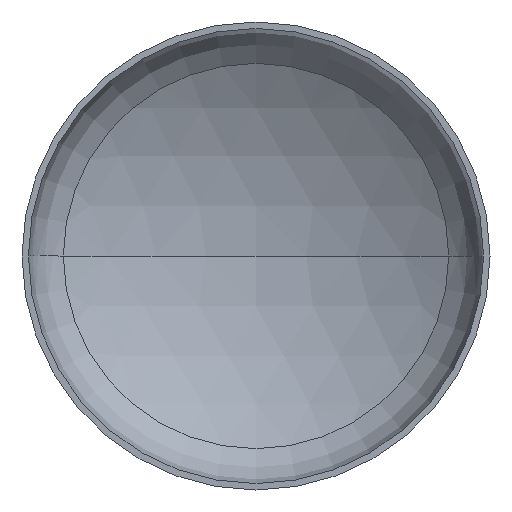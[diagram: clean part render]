
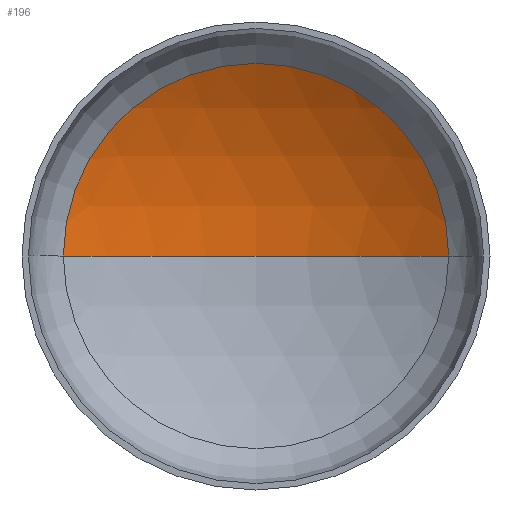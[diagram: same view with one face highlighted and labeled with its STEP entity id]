
A CAD part, front view. The second image highlights one B-rep face of the part: STEP entity #196.
In plain terms, the highlighted spherical face has radius 4400 mm.
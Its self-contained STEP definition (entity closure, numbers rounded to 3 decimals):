
#1 = CARTESIAN_POINT ( 'NONE',  ( 0., 844.586, 0. ) ) ;
#11 = EDGE_LOOP ( 'NONE', ( #64, #126, #37 ) ) ;
#17 = CIRCLE ( 'NONE', #129, 2263.741 ) ;
#37 = ORIENTED_EDGE ( 'NONE', *, *, #247, .T. ) ;
#48 = DIRECTION ( 'NONE',  ( 0., -1., 0. ) ) ;
#52 = DIRECTION ( 'NONE',  ( 1., 0., 0. ) ) ;
#55 = VERTEX_POINT ( 'NONE', #154 ) ;
#57 = CARTESIAN_POINT ( 'NONE',  ( 0., -2928.407, 0. ) ) ;
#64 = ORIENTED_EDGE ( 'NONE', *, *, #261, .F. ) ;
#92 = CARTESIAN_POINT ( 'NONE',  ( 0., -2928.407, 0. ) ) ;
#108 = AXIS2_PLACEMENT_3D ( 'NONE', #193, #191, #147 ) ;
#120 = AXIS2_PLACEMENT_3D ( 'NONE', #92, #167, #165 ) ;
#126 = ORIENTED_EDGE ( 'NONE', *, *, #255, .T. ) ;
#129 = AXIS2_PLACEMENT_3D ( 'NONE', #1, #48, #52 ) ;
#147 = DIRECTION ( 'NONE',  ( 1., 0., 0. ) ) ;
#150 = VERTEX_POINT ( 'NONE', #272 ) ;
#154 = CARTESIAN_POINT ( 'NONE',  ( 0., 1471.593, 0. ) ) ;
#165 = DIRECTION ( 'NONE',  ( -1., 0., 0. ) ) ;
#167 = DIRECTION ( 'NONE',  ( 0., 0., -1. ) ) ;
#185 = AXIS2_PLACEMENT_3D ( 'NONE', #57, #267, #302 ) ;
#191 = DIRECTION ( 'NONE',  ( 0., 0., 1. ) ) ;
#193 = CARTESIAN_POINT ( 'NONE',  ( 0., -2928.407, 0. ) ) ;
#196 = ADVANCED_FACE ( 'NONE', ( #380 ), #321, .F. ) ;
#214 = VERTEX_POINT ( 'NONE', #305 ) ;
#232 = CIRCLE ( 'NONE', #120, 4400. ) ;
#247 = EDGE_CURVE ( 'NONE', #150, #214, #17, .T. ) ;
#255 = EDGE_CURVE ( 'NONE', #55, #150, #232, .T. ) ;
#261 = EDGE_CURVE ( 'NONE', #55, #214, #301, .T. ) ;
#267 = DIRECTION ( 'NONE',  ( 0., 0., -1. ) ) ;
#272 = CARTESIAN_POINT ( 'NONE',  ( 2263.741, 844.586, 0. ) ) ;
#301 = CIRCLE ( 'NONE', #108, 4400. ) ;
#302 = DIRECTION ( 'NONE',  ( -1., 0., 0. ) ) ;
#305 = CARTESIAN_POINT ( 'NONE',  ( -2263.741, 844.586, 0. ) ) ;
#321 = SPHERICAL_SURFACE ( 'NONE', #185, 4400. ) ;
#380 = FACE_OUTER_BOUND ( 'NONE', #11, .T. ) ;
